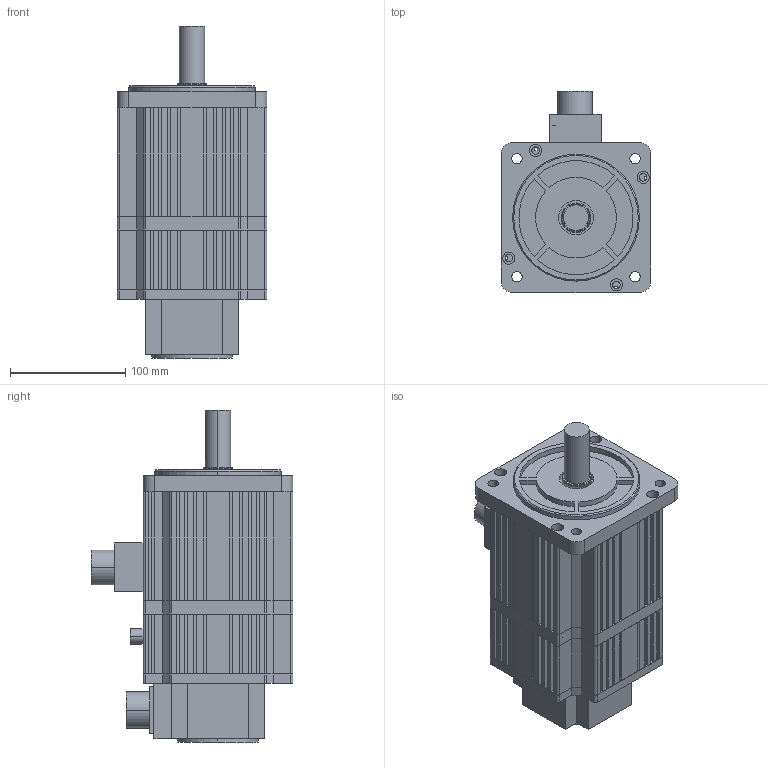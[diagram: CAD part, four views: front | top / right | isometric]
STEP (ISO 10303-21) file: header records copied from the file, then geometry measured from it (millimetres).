
FILE_DESCRIPTION (( 'STEP AP203' ), '1' );
FILE_NAME ('130-05025(湍惕掅).STEP', '2020-03-09T13:56:53', ( '' ), ( '' ), 'SwSTEP 2.0', 'SolidWorks 2016', '' );
FILE_SCHEMA (( 'CONFIG_CONTROL_DESIGN' ));
Length unit declared in the file: millimetre
Products named in the file (12): 130粣; 惕掅芛; 130侜督綴裔; 130晤鎢ん; 130侜督ヶ裔; 130惕掅蚾饜极; 130-5N隅赽; 130侜督惕掅傷裔; 130惕掅儂褲; 130瑤脣2; 130瑤脣; 130-05025(湍惕掅)
Assembly tree (11 placements, depth 3):
  130-05025(湍惕掅)
    130-5N隅赽
    130侜督ヶ裔
    130侜督綴裔
    130晤鎢ん
    130粣
    130瑤脣2
    130瑤脣
    130惕掅蚾饜极
      130惕掅儂褲
      130侜督惕掅傷裔
      惕掅芛
Bounding box: 130 x 175 x 288 mm (x, y, z)
Volume: 1280312.1 mm3; surface area: 393509 mm2
Topology: 14 solids, 14 shells, 832 faces, 2147 edges, 1408 vertices
Faces by surface type: plane 563, cylinder 249, cone 10, bspline 8, torus 2
Entity records: 26650 total; most frequent: CARTESIAN_POINT 4548, DIRECTION 4345, ORIENTED_EDGE 4278, EDGE_CURVE 2139, VECTOR 1555, LINE 1555, VERTEX_POINT 1408, AXIS2_PLACEMENT_3D 1395
